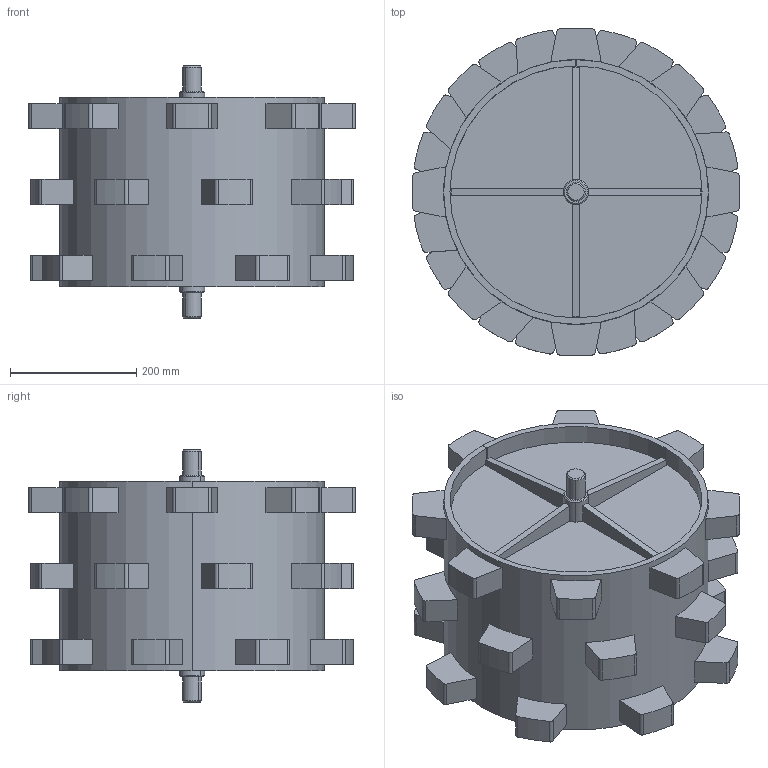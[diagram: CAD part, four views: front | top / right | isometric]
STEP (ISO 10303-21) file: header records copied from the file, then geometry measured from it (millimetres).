
FILE_DESCRIPTION (( 'STEP AP203' ), '1' );
FILE_NAME ('E-CW3T-02幗謫郪璃.STEP', '2025-10-29T13:11:49', ( '' ), ( '' ), 'SwSTEP 2.0', 'SolidWorks 2018', '' );
FILE_SCHEMA (( 'CONFIG_CONTROL_DESIGN' ));
Length unit declared in the file: millimetre
Products named in the file (6): E-CW3T-02-05-Q355B埴遠啣-儂樓; E-CW3T-02-02-45#种粣; E-CW3T-02-03-Q355B加强板; E-CW3T-02-01-Q355B橙埴啣; E-CW3T-02幗謫郪璃; E-CW3T-02-04-NM400騵艦輸
Assembly tree (36 placements, depth 2):
  E-CW3T-02幗謫郪璃
    E-CW3T-02-01-Q355B橙埴啣
    E-CW3T-02-02-45#种粣
    E-CW3T-02-03-Q355B加强板  x8
    E-CW3T-02-04-NM400騵艦輸  x24
    E-CW3T-02-05-Q355B埴遠啣-儂樓  x2
Bounding box: 519.7 x 519.7 x 400 mm (x, y, z)
Volume: 10458543 mm3; surface area: 1871067.5 mm2
Topology: 36 solids, 36 shells, 280 faces, 610 edges, 404 vertices
Faces by surface type: plane 156, cylinder 116, cone 8
Entity records: 2916 total; most frequent: DIRECTION 322, CARTESIAN_POINT 251, ORIENTED_EDGE 200, AXIS2_PLACEMENT_3D 135, LOCAL_TIME 102, CALENDAR_DATE 102, COORDINATED_UNIVERSAL_TIME_OFFSET 102, DATE_AND_TIME 102
